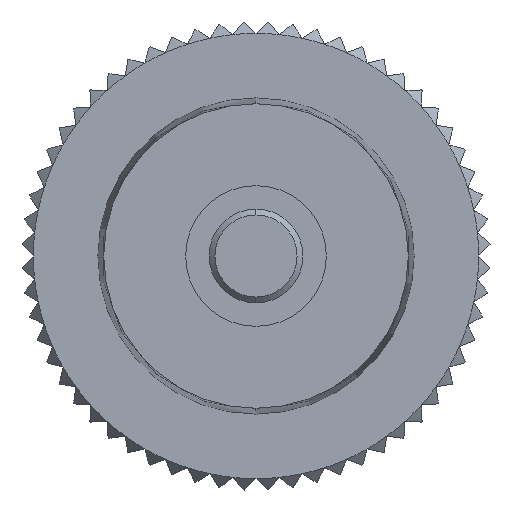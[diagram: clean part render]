
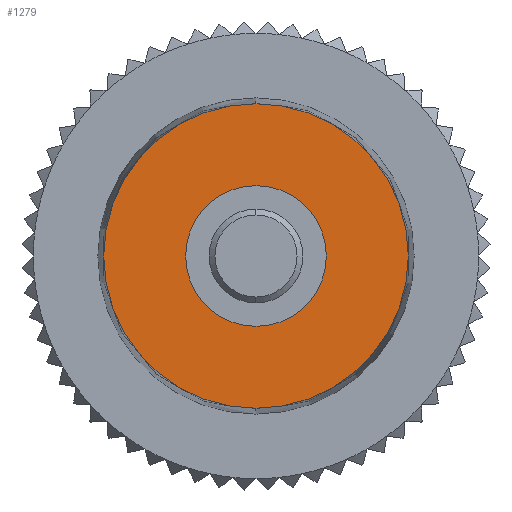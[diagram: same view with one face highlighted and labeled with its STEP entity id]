
A CAD part, front view. The second image highlights one B-rep face of the part: STEP entity #1279.
In plain terms, the highlighted planar face has unit normal (0, -1, 0).
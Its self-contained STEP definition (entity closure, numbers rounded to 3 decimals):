
#833 = EDGE_CURVE ( 'NONE', #834, #835, #4334, .T. ) ;
#834 = VERTEX_POINT ( 'NONE', #4329 ) ;
#835 = VERTEX_POINT ( 'NONE', #4327 ) ;
#846 = VERTEX_POINT ( 'NONE', #4372 ) ;
#850 = EDGE_CURVE ( 'NONE', #846, #851, #4367, .T. ) ;
#851 = VERTEX_POINT ( 'NONE', #4362 ) ;
#1279 = ADVANCED_FACE ( 'NONE', ( #5313, #5315 ), #5312, .T. ) ;
#1280 = EDGE_LOOP ( 'NONE', ( #1281, #1344 ) ) ;
#1281 = ORIENTED_EDGE ( 'NONE', *, *, #1343, .F. ) ;
#1343 = EDGE_CURVE ( 'NONE', #851, #846, #5348, .T. ) ;
#1344 = ORIENTED_EDGE ( 'NONE', *, *, #850, .F. ) ;
#1345 = EDGE_LOOP ( 'NONE', ( #1346, #1348 ) ) ;
#1346 = ORIENTED_EDGE ( 'NONE', *, *, #1347, .T. ) ;
#1347 = EDGE_CURVE ( 'NONE', #835, #834, #5342, .T. ) ;
#1348 = ORIENTED_EDGE ( 'NONE', *, *, #833, .T. ) ;
#4327 = CARTESIAN_POINT ( 'NONE',  ( 0., 0., 6.5 ) ) ;
#4329 = CARTESIAN_POINT ( 'NONE',  ( 0., 0., -6.5 ) ) ;
#4330 = DIRECTION ( 'NONE',  ( 0., 0., -1. ) ) ;
#4331 = DIRECTION ( 'NONE',  ( 0., -1., 0. ) ) ;
#4332 = AXIS2_PLACEMENT_3D ( 'NONE', #4340, #4331, #4330 ) ;
#4334 = CIRCLE ( 'NONE', #4332, 6.5 ) ;
#4340 = CARTESIAN_POINT ( 'NONE',  ( 0., 0., 0. ) ) ;
#4362 = CARTESIAN_POINT ( 'NONE',  ( 0., 0., -3. ) ) ;
#4363 = DIRECTION ( 'NONE',  ( 0., 0., -1. ) ) ;
#4364 = DIRECTION ( 'NONE',  ( 0., -1., 0. ) ) ;
#4365 = CARTESIAN_POINT ( 'NONE',  ( 0., 0., 0. ) ) ;
#4366 = AXIS2_PLACEMENT_3D ( 'NONE', #4365, #4364, #4363 ) ;
#4367 = CIRCLE ( 'NONE', #4366, 3. ) ;
#4372 = CARTESIAN_POINT ( 'NONE',  ( 0., 0., 3. ) ) ;
#5304 = DIRECTION ( 'NONE',  ( 0., 0., -1. ) ) ;
#5305 = DIRECTION ( 'NONE',  ( 0., -1., 0. ) ) ;
#5306 = CARTESIAN_POINT ( 'NONE',  ( 0., 0., 0. ) ) ;
#5307 = AXIS2_PLACEMENT_3D ( 'NONE', #5306, #5305, #5304 ) ;
#5312 = PLANE ( 'NONE',  #5307 ) ;
#5313 = FACE_BOUND ( 'NONE', #1280, .T. ) ;
#5315 = FACE_OUTER_BOUND ( 'NONE', #1345, .T. ) ;
#5338 = DIRECTION ( 'NONE',  ( 0., 0., -1. ) ) ;
#5339 = DIRECTION ( 'NONE',  ( 0., -1., 0. ) ) ;
#5340 = CARTESIAN_POINT ( 'NONE',  ( 0., 0., 0. ) ) ;
#5341 = AXIS2_PLACEMENT_3D ( 'NONE', #5340, #5339, #5338 ) ;
#5342 = CIRCLE ( 'NONE', #5341, 6.5 ) ;
#5344 = DIRECTION ( 'NONE',  ( 0., 0., -1. ) ) ;
#5345 = DIRECTION ( 'NONE',  ( 0., -1., 0. ) ) ;
#5346 = CARTESIAN_POINT ( 'NONE',  ( 0., 0., 0. ) ) ;
#5347 = AXIS2_PLACEMENT_3D ( 'NONE', #5346, #5345, #5344 ) ;
#5348 = CIRCLE ( 'NONE', #5347, 3. ) ;
